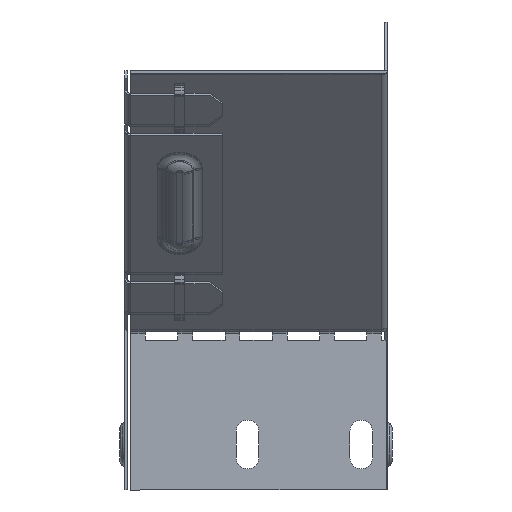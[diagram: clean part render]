
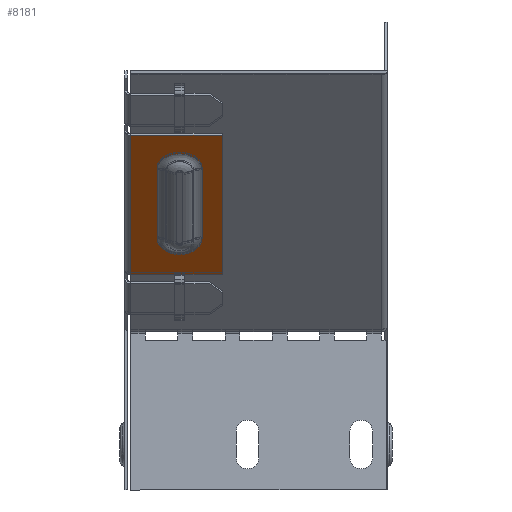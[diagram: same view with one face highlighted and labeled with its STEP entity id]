
A CAD part, left-side view. The second image highlights one B-rep face of the part: STEP entity #8181.
In plain terms, the highlighted planar face has unit normal (-0.707, 0, -0.707).
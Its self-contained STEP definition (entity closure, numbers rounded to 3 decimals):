
#33 = LINE ( 'NONE', #13120, #8216 ) ;
#248 = VECTOR ( 'NONE', #15101, 1000. ) ;
#595 = ORIENTED_EDGE ( 'NONE', *, *, #19110, .F. ) ;
#786 = AXIS2_PLACEMENT_3D ( 'NONE', #7668, #15906, #968 ) ;
#968 = DIRECTION ( 'NONE',  ( 0.707, 0., -0.707 ) ) ;
#1656 = ORIENTED_EDGE ( 'NONE', *, *, #17257, .T. ) ;
#1669 = CARTESIAN_POINT ( 'NONE',  ( -104.993, 56.183, -66.685 ) ) ;
#1769 = EDGE_CURVE ( 'NONE', #19735, #10672, #10214, .T. ) ;
#1775 = ORIENTED_EDGE ( 'NONE', *, *, #4841, .T. ) ;
#2011 = VERTEX_POINT ( 'NONE', #21163 ) ;
#2176 = EDGE_CURVE ( 'NONE', #10672, #21002, #16979, .T. ) ;
#2306 = EDGE_LOOP ( 'NONE', ( #595, #5164, #1656, #3184 ) ) ;
#2855 = VERTEX_POINT ( 'NONE', #17559 ) ;
#3075 = CARTESIAN_POINT ( 'NONE',  ( -104.993, 63.1, -66.685 ) ) ;
#3184 = ORIENTED_EDGE ( 'NONE', *, *, #11441, .T. ) ;
#3188 = DIRECTION ( 'NONE',  ( -0.707, 0., 0.707 ) ) ;
#4337 = CARTESIAN_POINT ( 'NONE',  ( -126.206, 63.1, -45.472 ) ) ;
#4418 = DIRECTION ( 'NONE',  ( 0.707, 0., 0.707 ) ) ;
#4790 = DIRECTION ( 'NONE',  ( 0., -1., 0. ) ) ;
#4796 = FACE_OUTER_BOUND ( 'NONE', #2306, .T. ) ;
#4841 = EDGE_CURVE ( 'NONE', #21002, #19188, #9408, .T. ) ;
#5164 = ORIENTED_EDGE ( 'NONE', *, *, #21807, .T. ) ;
#5758 = PLANE ( 'NONE',  #786 ) ;
#6088 = CARTESIAN_POINT ( 'NONE',  ( -94.022, 50., -77.656 ) ) ;
#6391 = VECTOR ( 'NONE', #3188, 1000. ) ;
#7668 = CARTESIAN_POINT ( 'NONE',  ( -78.337, 80., -93.341 ) ) ;
#7690 = CARTESIAN_POINT ( 'NONE',  ( -136.823, 50., -34.855 ) ) ;
#7726 = LINE ( 'NONE', #7690, #19054 ) ;
#7738 = CARTESIAN_POINT ( 'NONE',  ( -104.993, 70.017, -66.685 ) ) ;
#8151 = CIRCLE ( 'NONE', #8288, 6.917 ) ;
#8181 = ADVANCED_FACE ( 'NONE', ( #14025, #4796 ), #5758, .F. ) ;
#8216 = VECTOR ( 'NONE', #4790, 1000. ) ;
#8288 = AXIS2_PLACEMENT_3D ( 'NONE', #3075, #19883, #13099 ) ;
#8459 = CARTESIAN_POINT ( 'NONE',  ( -153.087, 78.2, -18.591 ) ) ;
#8496 = CARTESIAN_POINT ( 'NONE',  ( -78.337, 50., -93.341 ) ) ;
#9408 = LINE ( 'NONE', #1669, #15442 ) ;
#10214 = LINE ( 'NONE', #21780, #17543 ) ;
#10672 = VERTEX_POINT ( 'NONE', #14201 ) ;
#11078 = DIRECTION ( 'NONE',  ( 0., 1., 0. ) ) ;
#11178 = VERTEX_POINT ( 'NONE', #6088 ) ;
#11441 = EDGE_CURVE ( 'NONE', #13639, #2855, #7726, .T. ) ;
#11850 = DIRECTION ( 'NONE',  ( 0.707, 0., -0.707 ) ) ;
#12253 = CARTESIAN_POINT ( 'NONE',  ( -104.993, 56.183, -66.685 ) ) ;
#12825 = DIRECTION ( 'NONE',  ( 0.5, -0.707, -0.5 ) ) ;
#13099 = DIRECTION ( 'NONE',  ( 0.5, -0.707, -0.5 ) ) ;
#13120 = CARTESIAN_POINT ( 'NONE',  ( -94.022, 50., -77.656 ) ) ;
#13127 = AXIS2_PLACEMENT_3D ( 'NONE', #4337, #4418, #12825 ) ;
#13639 = VERTEX_POINT ( 'NONE', #14788 ) ;
#14025 = FACE_BOUND ( 'NONE', #16820, .T. ) ;
#14201 = CARTESIAN_POINT ( 'NONE',  ( -126.206, 70.017, -45.472 ) ) ;
#14788 = CARTESIAN_POINT ( 'NONE',  ( -136.823, 50., -34.855 ) ) ;
#14871 = ORIENTED_EDGE ( 'NONE', *, *, #15705, .T. ) ;
#15101 = DIRECTION ( 'NONE',  ( -0.707, 0., 0.707 ) ) ;
#15442 = VECTOR ( 'NONE', #11850, 1000. ) ;
#15705 = EDGE_CURVE ( 'NONE', #19188, #19735, #8151, .T. ) ;
#15906 = DIRECTION ( 'NONE',  ( 0.707, 0., 0.707 ) ) ;
#16127 = ORIENTED_EDGE ( 'NONE', *, *, #1769, .T. ) ;
#16454 = ORIENTED_EDGE ( 'NONE', *, *, #2176, .T. ) ;
#16820 = EDGE_LOOP ( 'NONE', ( #1775, #14871, #16127, #16454 ) ) ;
#16979 = CIRCLE ( 'NONE', #13127, 6.917 ) ;
#17082 = DIRECTION ( 'NONE',  ( -0.707, 0., 0.707 ) ) ;
#17257 = EDGE_CURVE ( 'NONE', #11178, #13639, #21058, .T. ) ;
#17543 = VECTOR ( 'NONE', #17082, 1000. ) ;
#17559 = CARTESIAN_POINT ( 'NONE',  ( -136.823, 78.2, -34.855 ) ) ;
#19054 = VECTOR ( 'NONE', #11078, 1000. ) ;
#19110 = EDGE_CURVE ( 'NONE', #2011, #2855, #21115, .T. ) ;
#19188 = VERTEX_POINT ( 'NONE', #12253 ) ;
#19735 = VERTEX_POINT ( 'NONE', #7738 ) ;
#19883 = DIRECTION ( 'NONE',  ( 0.707, 0., 0.707 ) ) ;
#21002 = VERTEX_POINT ( 'NONE', #21836 ) ;
#21058 = LINE ( 'NONE', #8496, #248 ) ;
#21115 = LINE ( 'NONE', #8459, #6391 ) ;
#21163 = CARTESIAN_POINT ( 'NONE',  ( -94.022, 78.2, -77.656 ) ) ;
#21780 = CARTESIAN_POINT ( 'NONE',  ( -104.993, 70.017, -66.685 ) ) ;
#21807 = EDGE_CURVE ( 'NONE', #2011, #11178, #33, .T. ) ;
#21836 = CARTESIAN_POINT ( 'NONE',  ( -126.206, 56.183, -45.472 ) ) ;
